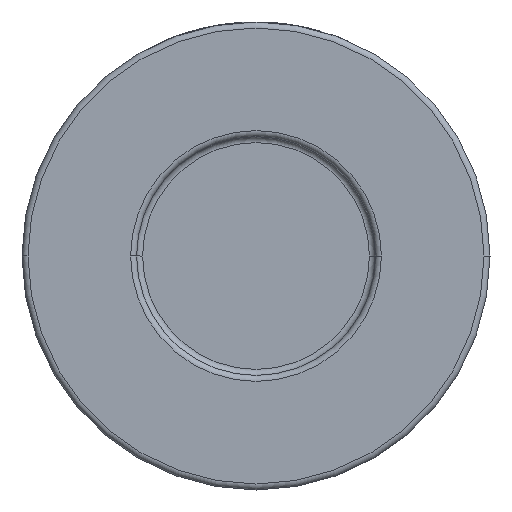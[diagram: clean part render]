
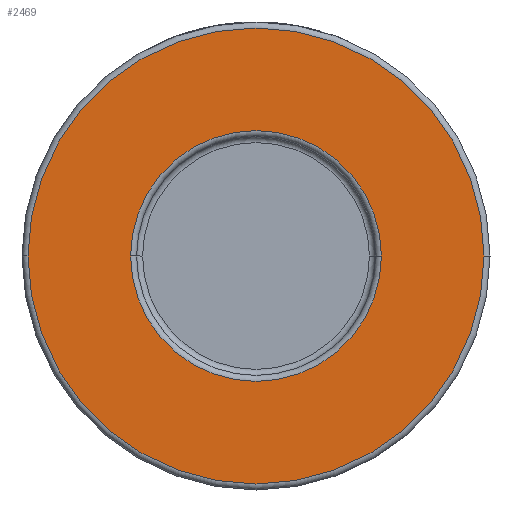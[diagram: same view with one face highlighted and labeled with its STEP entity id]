
A CAD part, front view. The second image highlights one B-rep face of the part: STEP entity #2469.
In plain terms, the highlighted planar face has unit normal (0, -1, 0).
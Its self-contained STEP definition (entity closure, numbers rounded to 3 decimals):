
#111 = VERTEX_POINT ( 'NONE', #1188 ) ;
#182 = CARTESIAN_POINT ( 'NONE',  ( 0., -19., 0. ) ) ;
#262 = VERTEX_POINT ( 'NONE', #787 ) ;
#424 = EDGE_CURVE ( 'NONE', #111, #2622, #3478, .T. ) ;
#438 = ORIENTED_EDGE ( 'NONE', *, *, #1637, .T. ) ;
#599 = AXIS2_PLACEMENT_3D ( 'NONE', #2510, #2833, #3498 ) ;
#677 = ORIENTED_EDGE ( 'NONE', *, *, #424, .T. ) ;
#705 = EDGE_CURVE ( 'NONE', #3265, #262, #2577, .T. ) ;
#787 = CARTESIAN_POINT ( 'NONE',  ( 38., -19., 0. ) ) ;
#812 = DIRECTION ( 'NONE',  ( 1., 0., 0. ) ) ;
#1188 = CARTESIAN_POINT ( 'NONE',  ( 20.9, -19., 0. ) ) ;
#1244 = DIRECTION ( 'NONE',  ( 0., 1., 0. ) ) ;
#1290 = DIRECTION ( 'NONE',  ( 0., -1., 0. ) ) ;
#1313 = CARTESIAN_POINT ( 'NONE',  ( 0., -19., 0. ) ) ;
#1637 = EDGE_CURVE ( 'NONE', #262, #3265, #1913, .T. ) ;
#1836 = ORIENTED_EDGE ( 'NONE', *, *, #3393, .T. ) ;
#1894 = DIRECTION ( 'NONE',  ( 0., -1., 0. ) ) ;
#1913 = CIRCLE ( 'NONE', #2273, 38. ) ;
#2060 = AXIS2_PLACEMENT_3D ( 'NONE', #2168, #1894, #812 ) ;
#2168 = CARTESIAN_POINT ( 'NONE',  ( 39., -19., 0. ) ) ;
#2273 = AXIS2_PLACEMENT_3D ( 'NONE', #1313, #1290, #2747 ) ;
#2388 = CARTESIAN_POINT ( 'NONE',  ( 0., -19., 0. ) ) ;
#2469 = ADVANCED_FACE ( 'NONE', ( #3217, #2940 ), #2895, .T. ) ;
#2510 = CARTESIAN_POINT ( 'NONE',  ( 0., -19., 0. ) ) ;
#2577 = CIRCLE ( 'NONE', #2946, 38. ) ;
#2622 = VERTEX_POINT ( 'NONE', #4201 ) ;
#2633 = DIRECTION ( 'NONE',  ( 1., 0., 0. ) ) ;
#2674 = AXIS2_PLACEMENT_3D ( 'NONE', #182, #1244, #2633 ) ;
#2747 = DIRECTION ( 'NONE',  ( 1., 0., 0. ) ) ;
#2825 = DIRECTION ( 'NONE',  ( 0., -1., 0. ) ) ;
#2833 = DIRECTION ( 'NONE',  ( 0., 1., 0. ) ) ;
#2895 = PLANE ( 'NONE',  #2060 ) ;
#2940 = FACE_OUTER_BOUND ( 'NONE', #3439, .T. ) ;
#2946 = AXIS2_PLACEMENT_3D ( 'NONE', #2388, #2825, #3853 ) ;
#3217 = FACE_BOUND ( 'NONE', #3562, .T. ) ;
#3265 = VERTEX_POINT ( 'NONE', #4256 ) ;
#3393 = EDGE_CURVE ( 'NONE', #2622, #111, #3953, .T. ) ;
#3439 = EDGE_LOOP ( 'NONE', ( #438, #4196 ) ) ;
#3478 = CIRCLE ( 'NONE', #2674, 20.9 ) ;
#3498 = DIRECTION ( 'NONE',  ( 1., 0., 0. ) ) ;
#3562 = EDGE_LOOP ( 'NONE', ( #677, #1836 ) ) ;
#3853 = DIRECTION ( 'NONE',  ( 1., 0., 0. ) ) ;
#3953 = CIRCLE ( 'NONE', #599, 20.9 ) ;
#4196 = ORIENTED_EDGE ( 'NONE', *, *, #705, .T. ) ;
#4201 = CARTESIAN_POINT ( 'NONE',  ( -20.9, -19., 0. ) ) ;
#4256 = CARTESIAN_POINT ( 'NONE',  ( -38., -19., 0. ) ) ;
